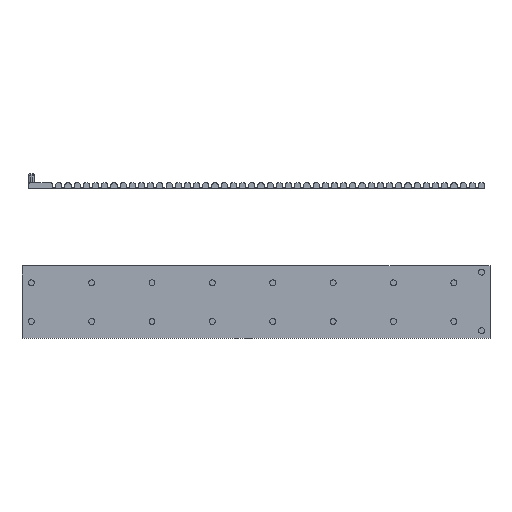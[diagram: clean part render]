
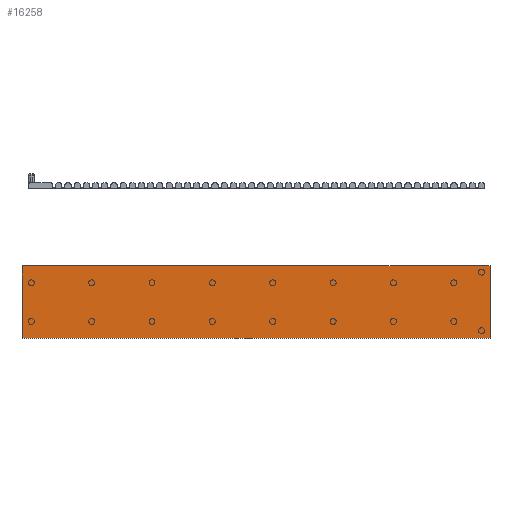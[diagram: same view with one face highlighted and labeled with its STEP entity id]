
A CAD part, front view. The second image highlights one B-rep face of the part: STEP entity #16258.
In plain terms, the highlighted planar face has unit normal (0, -1, 0).
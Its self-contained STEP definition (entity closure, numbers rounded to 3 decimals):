
#1496=FACE_OUTER_BOUND('',#2401,.T.);
#2401=EDGE_LOOP('',(#12823,#12824,#12825,#12826));
#3771=LINE('',#25518,#5563);
#3772=LINE('',#25520,#5564);
#3773=LINE('',#25522,#5565);
#3774=LINE('',#25523,#5566);
#5563=VECTOR('',#20676,10.);
#5564=VECTOR('',#20677,10.);
#5565=VECTOR('',#20678,10.);
#5566=VECTOR('',#20679,10.);
#7258=VERTEX_POINT('',#25516);
#7259=VERTEX_POINT('',#25517);
#7260=VERTEX_POINT('',#25519);
#7261=VERTEX_POINT('',#25521);
#9245=EDGE_CURVE('',#7258,#7259,#3771,.T.);
#9246=EDGE_CURVE('',#7260,#7258,#3772,.T.);
#9247=EDGE_CURVE('',#7261,#7260,#3773,.T.);
#9248=EDGE_CURVE('',#7259,#7261,#3774,.T.);
#12823=ORIENTED_EDGE('',*,*,#9245,.F.);
#12824=ORIENTED_EDGE('',*,*,#9246,.F.);
#12825=ORIENTED_EDGE('',*,*,#9247,.F.);
#12826=ORIENTED_EDGE('',*,*,#9248,.F.);
#15544=PLANE('',#17518);
#16258=ADVANCED_FACE('',(#1496),#15544,.F.);
#17518=AXIS2_PLACEMENT_3D('',#25515,#20674,#20675);
#20674=DIRECTION('center_axis',(0.,1.,0.));
#20675=DIRECTION('ref_axis',(0.,0.,1.));
#20676=DIRECTION('',(0.,0.,1.));
#20677=DIRECTION('',(-1.,0.,0.));
#20678=DIRECTION('',(0.,0.,-1.));
#20679=DIRECTION('',(1.,0.,0.));
#25515=CARTESIAN_POINT('Origin',(75.,-37.5,0.));
#25516=CARTESIAN_POINT('',(-75.,-37.5,-7.5));
#25517=CARTESIAN_POINT('',(-75.,-37.5,16.));
#25518=CARTESIAN_POINT('',(-75.,-37.5,0.));
#25519=CARTESIAN_POINT('',(76.75,-37.5,-7.5));
#25520=CARTESIAN_POINT('',(37.5,-37.5,-7.5));
#25521=CARTESIAN_POINT('',(76.75,-37.5,16.));
#25522=CARTESIAN_POINT('',(76.75,-37.5,0.));
#25523=CARTESIAN_POINT('',(37.5,-37.5,16.));
